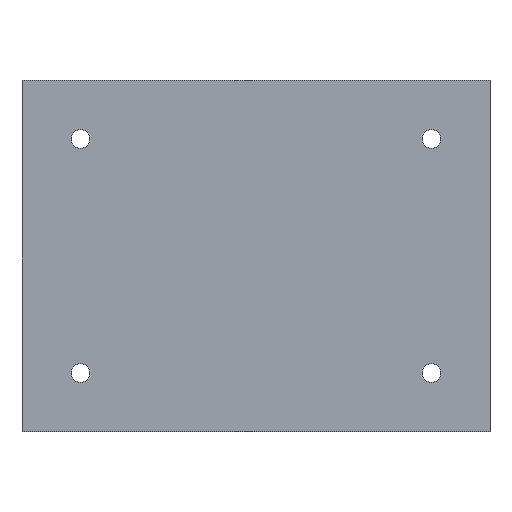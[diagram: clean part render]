
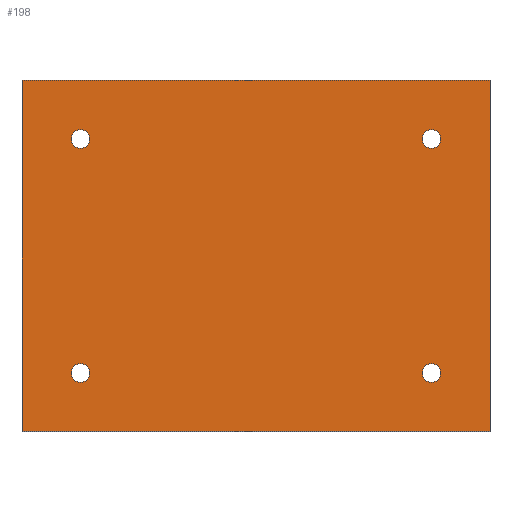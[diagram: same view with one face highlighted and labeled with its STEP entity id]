
A CAD part, top view. The second image highlights one B-rep face of the part: STEP entity #198.
In plain terms, the highlighted planar face has unit normal (0, 0, 1).
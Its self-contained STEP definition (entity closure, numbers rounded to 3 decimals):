
#42 = VERTEX_POINT('',#43);
#43 = CARTESIAN_POINT('',(80.,-60.,1.51));
#49 = EDGE_CURVE('',#42,#50,#52,.T.);
#50 = VERTEX_POINT('',#51);
#51 = CARTESIAN_POINT('',(0.,-60.,1.51));
#52 = LINE('',#53,#54);
#53 = CARTESIAN_POINT('',(80.,-60.,1.51));
#54 = VECTOR('',#55,1.);
#55 = DIRECTION('',(-1.,0.,0.));
#82 = VERTEX_POINT('',#83);
#83 = CARTESIAN_POINT('',(80.,0.,1.51));
#89 = EDGE_CURVE('',#82,#42,#90,.T.);
#90 = LINE('',#91,#92);
#91 = CARTESIAN_POINT('',(80.,0.,1.51));
#92 = VECTOR('',#93,1.);
#93 = DIRECTION('',(0.,-1.,0.));
#111 = EDGE_CURVE('',#50,#112,#114,.T.);
#112 = VERTEX_POINT('',#113);
#113 = CARTESIAN_POINT('',(0.,0.,1.51));
#114 = LINE('',#115,#116);
#115 = CARTESIAN_POINT('',(0.,-60.,1.51));
#116 = VECTOR('',#117,1.);
#117 = DIRECTION('',(0.,1.,0.));
#198 = ADVANCED_FACE('',(#199,#210,#221,#232,#243),#254,.T.);
#199 = FACE_BOUND('',#200,.T.);
#200 = EDGE_LOOP('',(#201,#202,#203,#209));
#201 = ORIENTED_EDGE('',*,*,#49,.F.);
#202 = ORIENTED_EDGE('',*,*,#89,.F.);
#203 = ORIENTED_EDGE('',*,*,#204,.F.);
#204 = EDGE_CURVE('',#112,#82,#205,.T.);
#205 = LINE('',#206,#207);
#206 = CARTESIAN_POINT('',(0.,0.,1.51));
#207 = VECTOR('',#208,1.);
#208 = DIRECTION('',(1.,0.,0.));
#209 = ORIENTED_EDGE('',*,*,#111,.F.);
#210 = FACE_BOUND('',#211,.T.);
#211 = EDGE_LOOP('',(#212));
#212 = ORIENTED_EDGE('',*,*,#213,.T.);
#213 = EDGE_CURVE('',#214,#214,#216,.T.);
#214 = VERTEX_POINT('',#215);
#215 = CARTESIAN_POINT('',(10.,-51.6,1.51));
#216 = CIRCLE('',#217,1.6);
#217 = AXIS2_PLACEMENT_3D('',#218,#219,#220);
#218 = CARTESIAN_POINT('',(10.,-50.,1.51));
#219 = DIRECTION('',(-0.,0.,-1.));
#220 = DIRECTION('',(-0.,-1.,0.));
#221 = FACE_BOUND('',#222,.T.);
#222 = EDGE_LOOP('',(#223));
#223 = ORIENTED_EDGE('',*,*,#224,.T.);
#224 = EDGE_CURVE('',#225,#225,#227,.T.);
#225 = VERTEX_POINT('',#226);
#226 = CARTESIAN_POINT('',(70.,-51.6,1.51));
#227 = CIRCLE('',#228,1.6);
#228 = AXIS2_PLACEMENT_3D('',#229,#230,#231);
#229 = CARTESIAN_POINT('',(70.,-50.,1.51));
#230 = DIRECTION('',(-0.,0.,-1.));
#231 = DIRECTION('',(-0.,-1.,0.));
#232 = FACE_BOUND('',#233,.T.);
#233 = EDGE_LOOP('',(#234));
#234 = ORIENTED_EDGE('',*,*,#235,.T.);
#235 = EDGE_CURVE('',#236,#236,#238,.T.);
#236 = VERTEX_POINT('',#237);
#237 = CARTESIAN_POINT('',(10.,-11.6,1.51));
#238 = CIRCLE('',#239,1.6);
#239 = AXIS2_PLACEMENT_3D('',#240,#241,#242);
#240 = CARTESIAN_POINT('',(10.,-10.,1.51));
#241 = DIRECTION('',(-0.,0.,-1.));
#242 = DIRECTION('',(-0.,-1.,0.));
#243 = FACE_BOUND('',#244,.T.);
#244 = EDGE_LOOP('',(#245));
#245 = ORIENTED_EDGE('',*,*,#246,.T.);
#246 = EDGE_CURVE('',#247,#247,#249,.T.);
#247 = VERTEX_POINT('',#248);
#248 = CARTESIAN_POINT('',(70.,-11.6,1.51));
#249 = CIRCLE('',#250,1.6);
#250 = AXIS2_PLACEMENT_3D('',#251,#252,#253);
#251 = CARTESIAN_POINT('',(70.,-10.,1.51));
#252 = DIRECTION('',(-0.,0.,-1.));
#253 = DIRECTION('',(-0.,-1.,0.));
#254 = PLANE('',#255);
#255 = AXIS2_PLACEMENT_3D('',#256,#257,#258);
#256 = CARTESIAN_POINT('',(0.,0.,1.51));
#257 = DIRECTION('',(0.,0.,1.));
#258 = DIRECTION('',(1.,0.,-0.));
